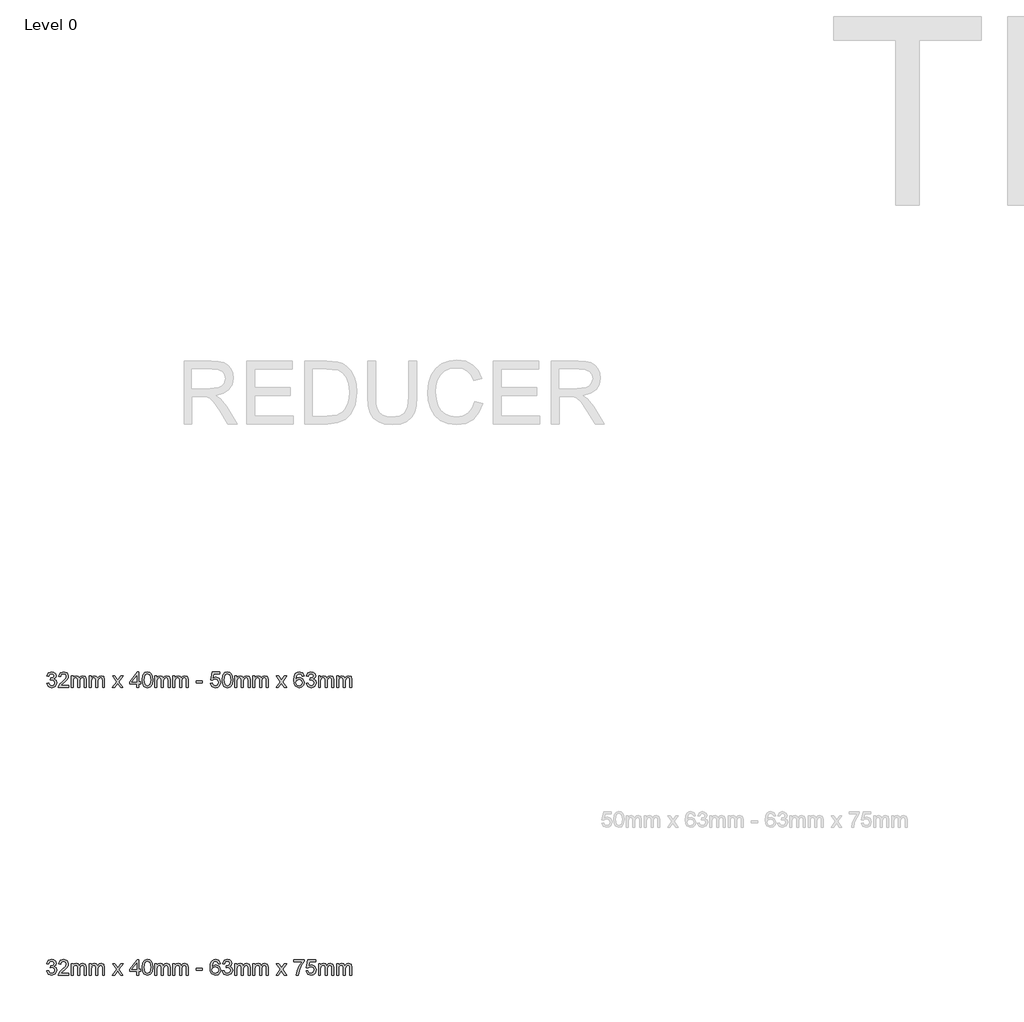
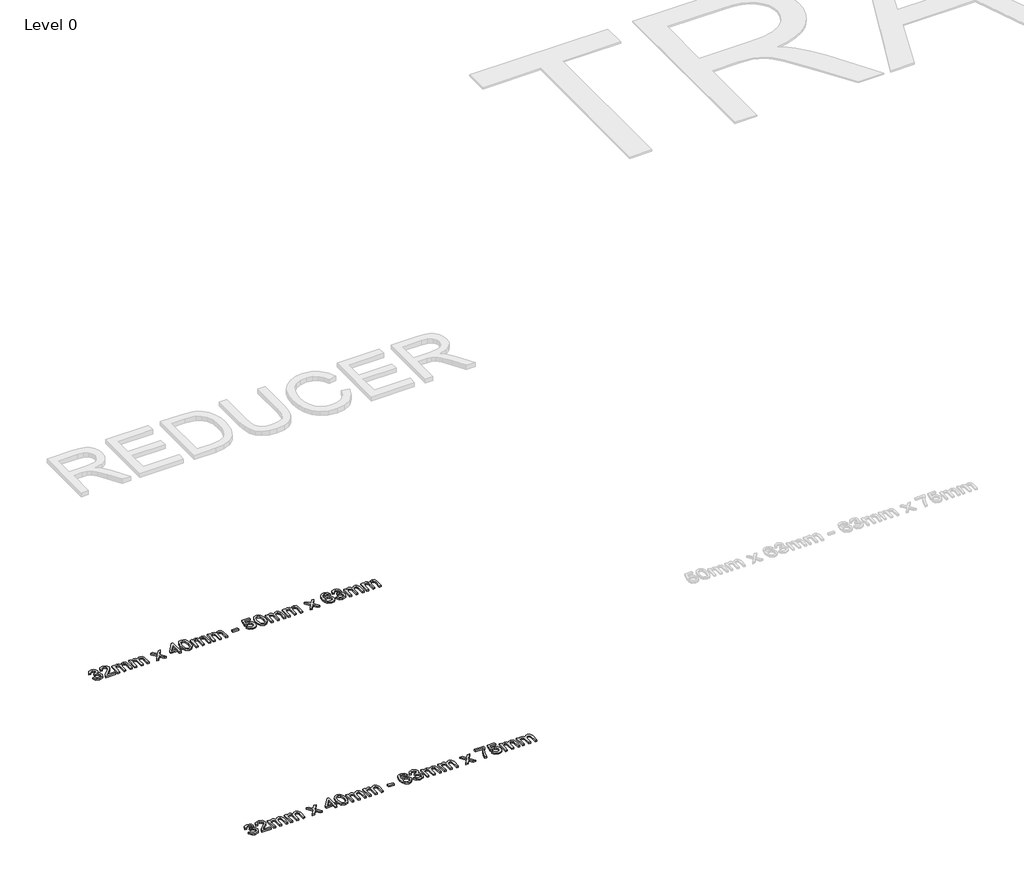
# One storey, part 2 of 21: 2 proxies.
"""IFC4 building model written with IfcOpenShell, lengths in millimetres."""

from ifc_helpers import new_model, si_unit, origin, origin_with_axes, place, context, project, spatial, polyline, outline, extrude, element, save

model = new_model("IFC4")

# Units and contexts
model_context = context("Model", 3, world=origin())
ifc_project = project(units=[si_unit("LENGTHUNIT", "METRE", prefix="MILLI")], contexts=[model_context])

# Site, building, storey
site = spatial("IfcSite", under=ifc_project)
building = spatial("IfcBuilding", under=site)
storey = spatial("IfcBuildingStorey", under=building, Name="Level 0", Elevation=0.0)

# Proxies
placement = place(None, origin())
element("IfcBuildingElementProxy", 1, Name="50mm", ObjectType="50mm", at=placement, inside=storey, context=model_context, shape_type="SweptSolid", body=[
    extrude(outline(polyline([(-11746.6398969, -12783.2605095), (-11740.3613775, -12782.4756946), (-11736.8971553, -12789.0853078), (-11730.4163009, -12791.1086588), (-11722.7888808, -12788.3250183), (-11719.9561895, -12781.4333623), (-11722.7643554, -12774.9402451), (-11729.9012661, -12772.3712025), (-11734.3035873, -12773.0579155), (-11733.6046115, -12766.7793962), (-11725.4744194, -12765.0503508), (-11722.3106342, -12759.5075954), (-11724.6037653, -12754.5963707), (-11730.5144027, -12752.6527275), (-11736.4986165, -12754.6147648), (-11739.5765625, -12760.5008768), (-11745.8550819, -12759.7160618), (-11740.7169967, -12749.8690871), (-11730.7351319, -12746.3742082), (-11723.1628942, -12748.0971222), (-11717.8653935, -12752.8060117), (-11716.0321149, -12759.1397134), (-11717.773423, -12764.9277234), (-11722.9237709, -12769.08479), (-11716.0811658, -12773.3767466), (-11713.6776701, -12781.5437269), (-11718.4846615, -12792.7763905), (-11730.6370301, -12797.3871782), (-11741.6489645, -12793.4508408), (-11746.6398969, -12783.2605095)])), origin_with_axes(), (0.0, 0.0, 1.0), 5.0),
    extrude(outline(polyline([(-11676.0065538, -12790.3238438), (-11676.0065538, -12796.6023632), (-11708.9687805, -12796.6023632), (-11708.2943302, -12792.2736184), (-11704.4806202, -12785.6088229), (-11696.6202082, -12778.3308908), (-11685.7799521, -12767.8707794), (-11683.0698881, -12760.7583942), (-11685.626668, -12755.0010409), (-11692.3037262, -12752.6527275), (-11699.2628272, -12754.9458586), (-11701.9054462, -12761.2856917), (-11708.1839656, -12760.5008768), (-11703.3708429, -12749.9917144), (-11692.1688361, -12746.3742082), (-11680.9300411, -12750.3963846), (-11676.7913687, -12760.3782494), (-11677.9072774, -12766.3318064), (-11681.6167542, -12772.4876984), (-11690.611469, -12781.0900058), (-11697.8342188, -12787.1294019), (-11700.6669102, -12790.3238438), (-11676.0065538, -12790.3238438)])), origin_with_axes(), (0.0, 0.0, 1.0), 5.0),
    extrude(outline(polyline([(-11668.1584046, -12796.6023632), (-11668.1584046, -12759.7160618), (-11661.8798852, -12759.7160618), (-11661.8798852, -12765.7861148), (-11657.5634031, -12760.8135765), (-11651.4197738, -12758.9312469), (-11645.1289917, -12760.8503647), (-11641.6709009, -12766.2275732), (-11636.771939, -12760.7553285), (-11630.5853901, -12758.9312469), (-11622.3754903, -12761.9662734), (-11619.4998793, -12771.3166074), (-11619.4998793, -12796.6023632), (-11625.7783987, -12796.6023632), (-11625.7783987, -12774.0144087), (-11626.3608785, -12768.7720903), (-11628.4700686, -12766.190785), (-11632.0569181, -12765.2097663), (-11638.2312042, -12767.7236266), (-11640.6898822, -12775.7802423), (-11640.6898822, -12796.6023632), (-11646.9684016, -12796.6023632), (-11646.9684016, -12773.3154329), (-11648.4215355, -12767.2331173), (-11653.1856073, -12765.2097663), (-11657.8331832, -12766.558667), (-11660.923392, -12770.507267), (-11661.8798852, -12777.999797), (-11661.8798852, -12796.6023632), (-11668.1584046, -12796.6023632)])), origin_with_axes(), (0.0, 0.0, 1.0), 5.0),
    extrude(outline(polyline([(-11610.0821002, -12796.6023632), (-11610.0821002, -12759.7160618), (-11603.8035809, -12759.7160618), (-11603.8035809, -12765.7861148), (-11599.4870988, -12760.8135765), (-11593.3434695, -12758.9312469), (-11587.0526873, -12760.8503647), (-11583.5945966, -12766.2275732), (-11578.6956347, -12760.7553285), (-11572.5090858, -12758.9312469), (-11564.2991859, -12761.9662734), (-11561.423575, -12771.3166074), (-11561.423575, -12796.6023632), (-11567.7020944, -12796.6023632), (-11567.7020944, -12774.0144087), (-11568.2845742, -12768.7720903), (-11570.3937643, -12766.190785), (-11573.9806138, -12765.2097663), (-11580.1548999, -12767.7236266), (-11582.6135779, -12775.7802423), (-11582.6135779, -12796.6023632), (-11588.8920973, -12796.6023632), (-11588.8920973, -12773.3154329), (-11590.3452312, -12767.2331173), (-11595.109303, -12765.2097663), (-11599.7568789, -12766.558667), (-11602.8470877, -12770.507267), (-11603.8035809, -12777.999797), (-11603.8035809, -12796.6023632), (-11610.0821002, -12796.6023632)])), origin_with_axes(), (0.0, 0.0, 1.0), 5.0),
    extrude(outline(polyline([(-11536.3094975, -12796.6023632), (-11522.8940674, -12778.0611107), (-11535.5246826, -12759.7160618), (-11527.9708389, -12759.7160618), (-11521.8762605, -12768.5452297), (-11519.0313064, -12772.714559), (-11516.5664971, -12769.3055192), (-11509.6257901, -12759.7160618), (-11502.0719465, -12759.7160618), (-11515.3402238, -12778.0611107), (-11502.5624558, -12796.6023632), (-11510.1162994, -12796.6023632), (-11517.8050331, -12785.4555388), (-11519.2152474, -12783.4199251), (-11528.7556538, -12796.6023632), (-11536.3094975, -12796.6023632)])), origin_with_axes(), (0.0, 0.0, 1.0), 5.0),
    extrude(outline(polyline([(-11458.6128201, -12796.6023632), (-11458.6128201, -12784.8301394), (-11481.3724529, -12784.8301394), (-11481.3724529, -12778.55162), (-11457.0431903, -12747.1590231), (-11452.3343007, -12747.1590231), (-11452.3343007, -12778.55162), (-11446.0557813, -12778.55162), (-11446.0557813, -12784.8301394), (-11452.3343007, -12784.8301394), (-11452.3343007, -12796.6023632), (-11458.6128201, -12796.6023632)]), holes=[polyline([(-11458.6128201, -12778.55162), (-11458.6128201, -12759.1519761), (-11473.646931, -12778.55162), (-11458.6128201, -12778.55162)])]), origin_with_axes(), (0.0, 0.0, 1.0), 5.0),
    extrude(outline(polyline([(-11440.5620769, -12771.8929559), (-11438.7165355, -12757.4413248), (-11433.2350938, -12749.1087977), (-11424.0809635, -12746.3742082), (-11416.747849, -12747.9928889), (-11411.6833402, -12752.6588589), (-11408.7402843, -12760.0900752), (-11407.5998501, -12771.8929559), (-11409.4269973, -12786.2832733), (-11414.890045, -12794.6341946), (-11424.0809635, -12797.3871782), (-11435.5588817, -12792.6047122), (-11439.3112781, -12784.1097038), (-11440.5620769, -12771.8929559)]), holes=[polyline([(-11434.2835575, -12771.8806932), (-11431.3405015, -12787.4727584), (-11424.0809635, -12791.1086588), (-11416.8214254, -12787.4604957), (-11413.8783695, -12771.8806932), (-11416.7233236, -12756.4664376), (-11424.1545399, -12752.6527275), (-11431.2423997, -12756.0127164), (-11434.2835575, -12771.8806932)])]), origin_with_axes(), (0.0, 0.0, 1.0), 5.0),
    extrude(outline(polyline([(-11400.5365158, -12796.6023632), (-11400.5365158, -12759.7160618), (-11394.2579964, -12759.7160618), (-11394.2579964, -12765.7861148), (-11389.9415143, -12760.8135765), (-11383.797885, -12758.9312469), (-11377.5071029, -12760.8503647), (-11374.0490121, -12766.2275732), (-11369.1500502, -12760.7553285), (-11362.9635014, -12758.9312469), (-11354.7536015, -12761.9662734), (-11351.8779906, -12771.3166074), (-11351.8779906, -12796.6023632), (-11358.1565099, -12796.6023632), (-11358.1565099, -12774.0144087), (-11358.7389898, -12768.7720903), (-11360.8481799, -12766.190785), (-11364.4350293, -12765.2097663), (-11370.6093155, -12767.7236266), (-11373.0679935, -12775.7802423), (-11373.0679935, -12796.6023632), (-11379.3465129, -12796.6023632), (-11379.3465129, -12773.3154329), (-11380.7996468, -12767.2331173), (-11385.5637186, -12765.2097663), (-11390.2112945, -12766.558667), (-11393.3015032, -12770.507267), (-11394.2579964, -12777.999797), (-11394.2579964, -12796.6023632), (-11400.5365158, -12796.6023632)])), origin_with_axes(), (0.0, 0.0, 1.0), 5.0),
    extrude(outline(polyline([(-11342.4602115, -12796.6023632), (-11342.4602115, -12759.7160618), (-11336.1816921, -12759.7160618), (-11336.1816921, -12765.7861148), (-11331.86521, -12760.8135765), (-11325.7215807, -12758.9312469), (-11319.4307986, -12760.8503647), (-11315.9727078, -12766.2275732), (-11311.0737459, -12760.7553285), (-11304.887197, -12758.9312469), (-11296.6772972, -12761.9662734), (-11293.8016863, -12771.3166074), (-11293.8016863, -12796.6023632), (-11300.0802056, -12796.6023632), (-11300.0802056, -12774.0144087), (-11300.6626855, -12768.7720903), (-11302.7718756, -12766.190785), (-11306.358725, -12765.2097663), (-11312.5330112, -12767.7236266), (-11314.9916892, -12775.7802423), (-11314.9916892, -12796.6023632), (-11321.2702086, -12796.6023632), (-11321.2702086, -12773.3154329), (-11322.7233424, -12767.2331173), (-11327.4874143, -12765.2097663), (-11332.1349902, -12766.558667), (-11335.2251989, -12770.507267), (-11336.1816921, -12777.999797), (-11336.1816921, -12796.6023632), (-11342.4602115, -12796.6023632)])), origin_with_axes(), (0.0, 0.0, 1.0), 5.0),
    extrude(outline(polyline([(-11267.9027938, -12781.6908797), (-11267.9027938, -12775.4123603), (-11248.2824207, -12775.4123603), (-11248.2824207, -12781.6908797), (-11267.9027938, -12781.6908797)])), origin_with_axes(), (0.0, 0.0, 1.0), 5.0),
    extrude(outline(polyline([(-11223.1683432, -12783.2605095), (-11216.8898238, -12782.4756946), (-11213.7260386, -12788.9442864), (-11207.1654764, -12791.1086588), (-11199.2928017, -12788.0981578), (-11196.4846358, -12780.1089871), (-11199.1149921, -12772.6532453), (-11207.0673745, -12769.9186558), (-11212.5794731, -12771.0100391), (-11216.1050089, -12773.8427305), (-11222.3835283, -12773.0579155), (-11216.8898238, -12747.1590231), (-11192.5605612, -12747.1590231), (-11192.5605612, -12753.4375425), (-11211.8130523, -12753.4375425), (-11214.4985908, -12767.2699055), (-11205.3138037, -12763.6401365), (-11194.5777808, -12768.1405595), (-11190.2061164, -12779.7165797), (-11194.1424538, -12791.3661762), (-11199.7955738, -12795.8819277), (-11207.1900019, -12797.3871782), (-11218.2693813, -12793.5182858), (-11223.1683432, -12783.2605095)])), origin_with_axes(), (0.0, 0.0, 1.0), 5.0),
    extrude(outline(polyline([(-11184.712412, -12771.8929559), (-11182.8668706, -12757.4413248), (-11177.3854289, -12749.1087977), (-11168.2312986, -12746.3742082), (-11160.8981841, -12747.9928889), (-11155.8336753, -12752.6588589), (-11152.8906194, -12760.0900752), (-11151.7501852, -12771.8929559), (-11153.5773324, -12786.2832733), (-11159.0403801, -12794.6341946), (-11168.2312986, -12797.3871782), (-11179.7092168, -12792.6047122), (-11183.4616132, -12784.1097038), (-11184.712412, -12771.8929559)]), holes=[polyline([(-11178.4338926, -12771.8806932), (-11175.4908366, -12787.4727584), (-11168.2312986, -12791.1086588), (-11160.9717605, -12787.4604957), (-11158.0287046, -12771.8806932), (-11160.8736587, -12756.4664376), (-11168.304875, -12752.6527275), (-11175.3927347, -12756.0127164), (-11178.4338926, -12771.8806932)])]), origin_with_axes(), (0.0, 0.0, 1.0), 5.0),
    extrude(outline(polyline([(-11144.6868509, -12796.6023632), (-11144.6868509, -12759.7160618), (-11138.4083315, -12759.7160618), (-11138.4083315, -12765.7861148), (-11134.0918494, -12760.8135765), (-11127.9482201, -12758.9312469), (-11121.657438, -12760.8503647), (-11118.1993472, -12766.2275732), (-11113.3003853, -12760.7553285), (-11107.1138364, -12758.9312469), (-11098.9039366, -12761.9662734), (-11096.0283257, -12771.3166074), (-11096.0283257, -12796.6023632), (-11102.306845, -12796.6023632), (-11102.306845, -12774.0144087), (-11102.8893249, -12768.7720903), (-11104.998515, -12766.190785), (-11108.5853644, -12765.2097663), (-11114.7596506, -12767.7236266), (-11117.2183286, -12775.7802423), (-11117.2183286, -12796.6023632), (-11123.496848, -12796.6023632), (-11123.496848, -12773.3154329), (-11124.9499818, -12767.2331173), (-11129.7140537, -12765.2097663), (-11134.3616295, -12766.558667), (-11137.4518383, -12770.507267), (-11138.4083315, -12777.999797), (-11138.4083315, -12796.6023632), (-11144.6868509, -12796.6023632)])), origin_with_axes(), (0.0, 0.0, 1.0), 5.0),
    extrude(outline(polyline([(-11086.6105466, -12796.6023632), (-11086.6105466, -12759.7160618), (-11080.3320272, -12759.7160618), (-11080.3320272, -12765.7861148), (-11076.0155451, -12760.8135765), (-11069.8719158, -12758.9312469), (-11063.5811337, -12760.8503647), (-11060.1230429, -12766.2275732), (-11055.224081, -12760.7553285), (-11049.0375321, -12758.9312469), (-11040.8276323, -12761.9662734), (-11037.9520213, -12771.3166074), (-11037.9520213, -12796.6023632), (-11044.2305407, -12796.6023632), (-11044.2305407, -12774.0144087), (-11044.8130206, -12768.7720903), (-11046.9222107, -12766.190785), (-11050.5090601, -12765.2097663), (-11056.6833463, -12767.7236266), (-11059.1420243, -12775.7802423), (-11059.1420243, -12796.6023632), (-11065.4205437, -12796.6023632), (-11065.4205437, -12773.3154329), (-11066.8736775, -12767.2331173), (-11071.6377494, -12765.2097663), (-11076.2853252, -12766.558667), (-11079.375534, -12770.507267), (-11080.3320272, -12777.999797), (-11080.3320272, -12796.6023632), (-11086.6105466, -12796.6023632)])), origin_with_axes(), (0.0, 0.0, 1.0), 5.0),
    extrude(outline(polyline([(-11012.8379438, -12796.6023632), (-10999.4225137, -12778.0611107), (-11012.0531289, -12759.7160618), (-11004.4992853, -12759.7160618), (-10998.4047069, -12768.5452297), (-10995.5597528, -12772.714559), (-10993.0949434, -12769.3055192), (-10986.1542364, -12759.7160618), (-10978.6003928, -12759.7160618), (-10991.8686701, -12778.0611107), (-10979.0909021, -12796.6023632), (-10986.6447458, -12796.6023632), (-10994.3334795, -12785.4555388), (-10995.7436938, -12783.4199251), (-11005.2841002, -12796.6023632), (-11012.8379438, -12796.6023632)])), origin_with_axes(), (0.0, 0.0, 1.0), 5.0),
    extrude(outline(polyline([(-10923.3690426, -12759.7160618), (-10929.647562, -12760.5008768), (-10932.0265322, -12755.2646897), (-10938.3173143, -12752.6527275), (-10943.982697, -12754.1733065), (-10948.2685223, -12759.8816087), (-10950.05275, -12771.0713528), (-10944.5161259, -12766.0620263), (-10937.6551267, -12764.4249514), (-10926.9865489, -12768.900849), (-10922.5842277, -12780.4646064), (-10924.6566296, -12789.1282274), (-10930.3588005, -12795.2595939), (-10938.5870944, -12797.3871782), (-10951.3832565, -12791.7463209), (-10955.0942661, -12784.2783164), (-10956.3312693, -12773.1560174), (-10954.9578432, -12760.6510953), (-10950.8375649, -12752.1009045), (-10945.212036, -12747.8058823), (-10937.9249069, -12746.3742082), (-10928.0043557, -12749.918138), (-10923.3690426, -12759.7160618)]), holes=[polyline([(-10950.05275, -12780.3665045), (-10948.5996161, -12785.8050267), (-10944.7368551, -12789.7536268), (-10939.0776038, -12791.1086588), (-10931.6770443, -12788.3004929), (-10928.862747, -12780.6730728), (-10931.6402561, -12773.3706152), (-10939.3351212, -12770.7034708), (-10946.9318844, -12773.3706152), (-10950.05275, -12780.3665045)])]), origin_with_axes(), (0.0, 0.0, 1.0), 5.0),
    extrude(outline(polyline([(-10917.0905232, -12783.2605095), (-10910.8120038, -12782.4756946), (-10907.3477817, -12789.0853078), (-10900.8669272, -12791.1086588), (-10893.2395072, -12788.3250183), (-10890.4068158, -12781.4333623), (-10893.2149817, -12774.9402451), (-10900.3518924, -12772.3712025), (-10904.7542136, -12773.0579155), (-10904.0552378, -12766.7793962), (-10895.9250457, -12765.0503508), (-10892.7612606, -12759.5075954), (-10895.0543917, -12754.5963707), (-10900.9650291, -12752.6527275), (-10906.9492429, -12754.6147648), (-10910.0271889, -12760.5008768), (-10916.3057083, -12759.7160618), (-10911.1676231, -12749.8690871), (-10901.1857583, -12746.3742082), (-10893.6135205, -12748.0971222), (-10888.3160198, -12752.8060117), (-10886.4827412, -12759.1397134), (-10888.2240493, -12764.9277234), (-10893.3743972, -12769.08479), (-10886.5317921, -12773.3767466), (-10884.1282964, -12781.5437269), (-10888.9352878, -12792.7763905), (-10901.0876564, -12797.3871782), (-10912.0995908, -12793.4508408), (-10917.0905232, -12783.2605095)])), origin_with_axes(), (0.0, 0.0, 1.0), 5.0),
    extrude(outline(polyline([(-10877.0649621, -12796.6023632), (-10877.0649621, -12759.7160618), (-10870.7864427, -12759.7160618), (-10870.7864427, -12765.7861148), (-10866.4699607, -12760.8135765), (-10860.3263313, -12758.9312469), (-10854.0355492, -12760.8503647), (-10850.5774585, -12766.2275732), (-10845.6784966, -12760.7553285), (-10839.4919477, -12758.9312469), (-10831.2820478, -12761.9662734), (-10828.4064369, -12771.3166074), (-10828.4064369, -12796.6023632), (-10834.6849563, -12796.6023632), (-10834.6849563, -12774.0144087), (-10835.2674361, -12768.7720903), (-10837.3766262, -12766.190785), (-10840.9634757, -12765.2097663), (-10847.1377618, -12767.7236266), (-10849.5964398, -12775.7802423), (-10849.5964398, -12796.6023632), (-10855.8749592, -12796.6023632), (-10855.8749592, -12773.3154329), (-10857.3280931, -12767.2331173), (-10862.0921649, -12765.2097663), (-10866.7397408, -12766.558667), (-10869.8299496, -12770.507267), (-10870.7864427, -12777.999797), (-10870.7864427, -12796.6023632), (-10877.0649621, -12796.6023632)])), origin_with_axes(), (0.0, 0.0, 1.0), 5.0),
    extrude(outline(polyline([(-10818.9886578, -12796.6023632), (-10818.9886578, -12759.7160618), (-10812.7101384, -12759.7160618), (-10812.7101384, -12765.7861148), (-10808.3936564, -12760.8135765), (-10802.250027, -12758.9312469), (-10795.9592449, -12760.8503647), (-10792.5011542, -12766.2275732), (-10787.6021923, -12760.7553285), (-10781.4156434, -12758.9312469), (-10773.2057435, -12761.9662734), (-10770.3301326, -12771.3166074), (-10770.3301326, -12796.6023632), (-10776.608652, -12796.6023632), (-10776.608652, -12774.0144087), (-10777.1911318, -12768.7720903), (-10779.3003219, -12766.190785), (-10782.8871714, -12765.2097663), (-10789.0614575, -12767.7236266), (-10791.5201355, -12775.7802423), (-10791.5201355, -12796.6023632), (-10797.7986549, -12796.6023632), (-10797.7986549, -12773.3154329), (-10799.2517888, -12767.2331173), (-10804.0158606, -12765.2097663), (-10808.6634365, -12766.558667), (-10811.7536452, -12770.507267), (-10812.7101384, -12777.999797), (-10812.7101384, -12796.6023632), (-10818.9886578, -12796.6023632)])), origin_with_axes(), (0.0, 0.0, 1.0), 5.0),
])
element("IfcBuildingElementProxy", 2, Name="50mm", ObjectType="50mm", at=placement, inside=storey, context=model_context, shape_type="SweptSolid", body=[
    extrude(outline(polyline([(-11746.6398969, -13703.2605095), (-11740.3613775, -13702.4756946), (-11736.8971553, -13709.0853078), (-11730.4163009, -13711.1086588), (-11722.7888808, -13708.3250183), (-11719.9561895, -13701.4333623), (-11722.7643554, -13694.9402451), (-11729.9012661, -13692.3712025), (-11734.3035873, -13693.0579155), (-11733.6046115, -13686.7793962), (-11725.4744194, -13685.0503508), (-11722.3106342, -13679.5075954), (-11724.6037653, -13674.5963707), (-11730.5144027, -13672.6527275), (-11736.4986165, -13674.6147648), (-11739.5765625, -13680.5008768), (-11745.8550819, -13679.7160618), (-11740.7169967, -13669.8690871), (-11730.7351319, -13666.3742082), (-11723.1628942, -13668.0971222), (-11717.8653935, -13672.8060117), (-11716.0321149, -13679.1397134), (-11717.773423, -13684.9277234), (-11722.9237709, -13689.08479), (-11716.0811658, -13693.3767466), (-11713.6776701, -13701.5437269), (-11718.4846615, -13712.7763905), (-11730.6370301, -13717.3871782), (-11741.6489645, -13713.4508408), (-11746.6398969, -13703.2605095)])), origin_with_axes(), (0.0, 0.0, 1.0), 5.0),
    extrude(outline(polyline([(-11676.0065538, -13710.3238438), (-11676.0065538, -13716.6023632), (-11708.9687805, -13716.6023632), (-11708.2943302, -13712.2736184), (-11704.4806202, -13705.6088229), (-11696.6202082, -13698.3308908), (-11685.7799521, -13687.8707794), (-11683.0698881, -13680.7583942), (-11685.626668, -13675.0010409), (-11692.3037262, -13672.6527275), (-11699.2628272, -13674.9458586), (-11701.9054462, -13681.2856917), (-11708.1839656, -13680.5008768), (-11703.3708429, -13669.9917144), (-11692.1688361, -13666.3742082), (-11680.9300411, -13670.3963846), (-11676.7913687, -13680.3782494), (-11677.9072774, -13686.3318064), (-11681.6167542, -13692.4876984), (-11690.611469, -13701.0900058), (-11697.8342188, -13707.1294019), (-11700.6669102, -13710.3238438), (-11676.0065538, -13710.3238438)])), origin_with_axes(), (0.0, 0.0, 1.0), 5.0),
    extrude(outline(polyline([(-11668.1584046, -13716.6023632), (-11668.1584046, -13679.7160618), (-11661.8798852, -13679.7160618), (-11661.8798852, -13685.7861148), (-11657.5634031, -13680.8135765), (-11651.4197738, -13678.9312469), (-11645.1289917, -13680.8503647), (-11641.6709009, -13686.2275732), (-11636.771939, -13680.7553285), (-11630.5853901, -13678.9312469), (-11622.3754903, -13681.9662734), (-11619.4998793, -13691.3166074), (-11619.4998793, -13716.6023632), (-11625.7783987, -13716.6023632), (-11625.7783987, -13694.0144087), (-11626.3608785, -13688.7720903), (-11628.4700686, -13686.190785), (-11632.0569181, -13685.2097663), (-11638.2312042, -13687.7236266), (-11640.6898822, -13695.7802423), (-11640.6898822, -13716.6023632), (-11646.9684016, -13716.6023632), (-11646.9684016, -13693.3154329), (-11648.4215355, -13687.2331173), (-11653.1856073, -13685.2097663), (-11657.8331832, -13686.558667), (-11660.923392, -13690.507267), (-11661.8798852, -13697.999797), (-11661.8798852, -13716.6023632), (-11668.1584046, -13716.6023632)])), origin_with_axes(), (0.0, 0.0, 1.0), 5.0),
    extrude(outline(polyline([(-11610.0821002, -13716.6023632), (-11610.0821002, -13679.7160618), (-11603.8035809, -13679.7160618), (-11603.8035809, -13685.7861148), (-11599.4870988, -13680.8135765), (-11593.3434695, -13678.9312469), (-11587.0526873, -13680.8503647), (-11583.5945966, -13686.2275732), (-11578.6956347, -13680.7553285), (-11572.5090858, -13678.9312469), (-11564.2991859, -13681.9662734), (-11561.423575, -13691.3166074), (-11561.423575, -13716.6023632), (-11567.7020944, -13716.6023632), (-11567.7020944, -13694.0144087), (-11568.2845742, -13688.7720903), (-11570.3937643, -13686.190785), (-11573.9806138, -13685.2097663), (-11580.1548999, -13687.7236266), (-11582.6135779, -13695.7802423), (-11582.6135779, -13716.6023632), (-11588.8920973, -13716.6023632), (-11588.8920973, -13693.3154329), (-11590.3452312, -13687.2331173), (-11595.109303, -13685.2097663), (-11599.7568789, -13686.558667), (-11602.8470877, -13690.507267), (-11603.8035809, -13697.999797), (-11603.8035809, -13716.6023632), (-11610.0821002, -13716.6023632)])), origin_with_axes(), (0.0, 0.0, 1.0), 5.0),
    extrude(outline(polyline([(-11536.3094975, -13716.6023632), (-11522.8940674, -13698.0611107), (-11535.5246826, -13679.7160618), (-11527.9708389, -13679.7160618), (-11521.8762605, -13688.5452297), (-11519.0313064, -13692.714559), (-11516.5664971, -13689.3055192), (-11509.6257901, -13679.7160618), (-11502.0719465, -13679.7160618), (-11515.3402238, -13698.0611107), (-11502.5624558, -13716.6023632), (-11510.1162994, -13716.6023632), (-11517.8050331, -13705.4555388), (-11519.2152474, -13703.4199251), (-11528.7556538, -13716.6023632), (-11536.3094975, -13716.6023632)])), origin_with_axes(), (0.0, 0.0, 1.0), 5.0),
    extrude(outline(polyline([(-11458.6128201, -13716.6023632), (-11458.6128201, -13704.8301394), (-11481.3724529, -13704.8301394), (-11481.3724529, -13698.55162), (-11457.0431903, -13667.1590231), (-11452.3343007, -13667.1590231), (-11452.3343007, -13698.55162), (-11446.0557813, -13698.55162), (-11446.0557813, -13704.8301394), (-11452.3343007, -13704.8301394), (-11452.3343007, -13716.6023632), (-11458.6128201, -13716.6023632)]), holes=[polyline([(-11458.6128201, -13698.55162), (-11458.6128201, -13679.1519761), (-11473.646931, -13698.55162), (-11458.6128201, -13698.55162)])]), origin_with_axes(), (0.0, 0.0, 1.0), 5.0),
    extrude(outline(polyline([(-11440.5620769, -13691.8929559), (-11438.7165355, -13677.4413248), (-11433.2350938, -13669.1087977), (-11424.0809635, -13666.3742082), (-11416.747849, -13667.9928889), (-11411.6833402, -13672.6588589), (-11408.7402843, -13680.0900752), (-11407.5998501, -13691.8929559), (-11409.4269973, -13706.2832733), (-11414.890045, -13714.6341946), (-11424.0809635, -13717.3871782), (-11435.5588817, -13712.6047122), (-11439.3112781, -13704.1097038), (-11440.5620769, -13691.8929559)]), holes=[polyline([(-11434.2835575, -13691.8806932), (-11431.3405015, -13707.4727584), (-11424.0809635, -13711.1086588), (-11416.8214254, -13707.4604957), (-11413.8783695, -13691.8806932), (-11416.7233236, -13676.4664376), (-11424.1545399, -13672.6527275), (-11431.2423997, -13676.0127164), (-11434.2835575, -13691.8806932)])]), origin_with_axes(), (0.0, 0.0, 1.0), 5.0),
    extrude(outline(polyline([(-11400.5365158, -13716.6023632), (-11400.5365158, -13679.7160618), (-11394.2579964, -13679.7160618), (-11394.2579964, -13685.7861148), (-11389.9415143, -13680.8135765), (-11383.797885, -13678.9312469), (-11377.5071029, -13680.8503647), (-11374.0490121, -13686.2275732), (-11369.1500502, -13680.7553285), (-11362.9635014, -13678.9312469), (-11354.7536015, -13681.9662734), (-11351.8779906, -13691.3166074), (-11351.8779906, -13716.6023632), (-11358.1565099, -13716.6023632), (-11358.1565099, -13694.0144087), (-11358.7389898, -13688.7720903), (-11360.8481799, -13686.190785), (-11364.4350293, -13685.2097663), (-11370.6093155, -13687.7236266), (-11373.0679935, -13695.7802423), (-11373.0679935, -13716.6023632), (-11379.3465129, -13716.6023632), (-11379.3465129, -13693.3154329), (-11380.7996468, -13687.2331173), (-11385.5637186, -13685.2097663), (-11390.2112945, -13686.558667), (-11393.3015032, -13690.507267), (-11394.2579964, -13697.999797), (-11394.2579964, -13716.6023632), (-11400.5365158, -13716.6023632)])), origin_with_axes(), (0.0, 0.0, 1.0), 5.0),
    extrude(outline(polyline([(-11342.4602115, -13716.6023632), (-11342.4602115, -13679.7160618), (-11336.1816921, -13679.7160618), (-11336.1816921, -13685.7861148), (-11331.86521, -13680.8135765), (-11325.7215807, -13678.9312469), (-11319.4307986, -13680.8503647), (-11315.9727078, -13686.2275732), (-11311.0737459, -13680.7553285), (-11304.887197, -13678.9312469), (-11296.6772972, -13681.9662734), (-11293.8016863, -13691.3166074), (-11293.8016863, -13716.6023632), (-11300.0802056, -13716.6023632), (-11300.0802056, -13694.0144087), (-11300.6626855, -13688.7720903), (-11302.7718756, -13686.190785), (-11306.358725, -13685.2097663), (-11312.5330112, -13687.7236266), (-11314.9916892, -13695.7802423), (-11314.9916892, -13716.6023632), (-11321.2702086, -13716.6023632), (-11321.2702086, -13693.3154329), (-11322.7233424, -13687.2331173), (-11327.4874143, -13685.2097663), (-11332.1349902, -13686.558667), (-11335.2251989, -13690.507267), (-11336.1816921, -13697.999797), (-11336.1816921, -13716.6023632), (-11342.4602115, -13716.6023632)])), origin_with_axes(), (0.0, 0.0, 1.0), 5.0),
    extrude(outline(polyline([(-11267.9027938, -13701.6908797), (-11267.9027938, -13695.4123603), (-11248.2824207, -13695.4123603), (-11248.2824207, -13701.6908797), (-11267.9027938, -13701.6908797)])), origin_with_axes(), (0.0, 0.0, 1.0), 5.0),
    extrude(outline(polyline([(-11190.9909313, -13679.7160618), (-11197.2694507, -13680.5008768), (-11199.648421, -13675.2646897), (-11205.9392031, -13672.6527275), (-11211.6045858, -13674.1733065), (-11215.890411, -13679.8816087), (-11217.6746387, -13691.0713528), (-11212.1380147, -13686.0620263), (-11205.2770155, -13684.4249514), (-11194.6084376, -13688.900849), (-11190.2061164, -13700.4646064), (-11192.2785183, -13709.1282274), (-11197.9806892, -13715.2595939), (-11206.2089832, -13717.3871782), (-11219.0051453, -13711.7463209), (-11222.7161549, -13704.2783164), (-11223.9531581, -13693.1560174), (-11222.579732, -13680.6510953), (-11218.4594536, -13672.1009045), (-11212.8339248, -13667.8058823), (-11205.5467956, -13666.3742082), (-11195.6262445, -13669.918138), (-11190.9909313, -13679.7160618)]), holes=[polyline([(-11217.6746387, -13700.3665045), (-11216.2215048, -13705.8050267), (-11212.3587439, -13709.7536268), (-11206.6994925, -13711.1086588), (-11199.2989331, -13708.3004929), (-11196.4846358, -13700.6730728), (-11199.2621449, -13693.3706152), (-11206.9570099, -13690.7034708), (-11214.5537731, -13693.3706152), (-11217.6746387, -13700.3665045)])]), origin_with_axes(), (0.0, 0.0, 1.0), 5.0),
    extrude(outline(polyline([(-11184.712412, -13703.2605095), (-11178.4338926, -13702.4756946), (-11174.9696705, -13709.0853078), (-11168.488816, -13711.1086588), (-11160.8613959, -13708.3250183), (-11158.0287046, -13701.4333623), (-11160.8368705, -13694.9402451), (-11167.9737812, -13692.3712025), (-11172.3761024, -13693.0579155), (-11171.6771266, -13686.7793962), (-11163.5469345, -13685.0503508), (-11160.3831493, -13679.5075954), (-11162.6762804, -13674.5963707), (-11168.5869178, -13672.6527275), (-11174.5711316, -13674.6147648), (-11177.6490776, -13680.5008768), (-11183.927597, -13679.7160618), (-11178.7895118, -13669.8690871), (-11168.807647, -13666.3742082), (-11161.2354093, -13668.0971222), (-11155.9379086, -13672.8060117), (-11154.10463, -13679.1397134), (-11155.8459381, -13684.9277234), (-11160.996286, -13689.08479), (-11154.1536809, -13693.3767466), (-11151.7501852, -13701.5437269), (-11156.5571766, -13712.7763905), (-11168.7095452, -13717.3871782), (-11179.7214796, -13713.4508408), (-11184.712412, -13703.2605095)])), origin_with_axes(), (0.0, 0.0, 1.0), 5.0),
    extrude(outline(polyline([(-11144.6868509, -13716.6023632), (-11144.6868509, -13679.7160618), (-11138.4083315, -13679.7160618), (-11138.4083315, -13685.7861148), (-11134.0918494, -13680.8135765), (-11127.9482201, -13678.9312469), (-11121.657438, -13680.8503647), (-11118.1993472, -13686.2275732), (-11113.3003853, -13680.7553285), (-11107.1138364, -13678.9312469), (-11098.9039366, -13681.9662734), (-11096.0283257, -13691.3166074), (-11096.0283257, -13716.6023632), (-11102.306845, -13716.6023632), (-11102.306845, -13694.0144087), (-11102.8893249, -13688.7720903), (-11104.998515, -13686.190785), (-11108.5853644, -13685.2097663), (-11114.7596506, -13687.7236266), (-11117.2183286, -13695.7802423), (-11117.2183286, -13716.6023632), (-11123.496848, -13716.6023632), (-11123.496848, -13693.3154329), (-11124.9499818, -13687.2331173), (-11129.7140537, -13685.2097663), (-11134.3616295, -13686.558667), (-11137.4518383, -13690.507267), (-11138.4083315, -13697.999797), (-11138.4083315, -13716.6023632), (-11144.6868509, -13716.6023632)])), origin_with_axes(), (0.0, 0.0, 1.0), 5.0),
    extrude(outline(polyline([(-11086.6105466, -13716.6023632), (-11086.6105466, -13679.7160618), (-11080.3320272, -13679.7160618), (-11080.3320272, -13685.7861148), (-11076.0155451, -13680.8135765), (-11069.8719158, -13678.9312469), (-11063.5811337, -13680.8503647), (-11060.1230429, -13686.2275732), (-11055.224081, -13680.7553285), (-11049.0375321, -13678.9312469), (-11040.8276323, -13681.9662734), (-11037.9520213, -13691.3166074), (-11037.9520213, -13716.6023632), (-11044.2305407, -13716.6023632), (-11044.2305407, -13694.0144087), (-11044.8130206, -13688.7720903), (-11046.9222107, -13686.190785), (-11050.5090601, -13685.2097663), (-11056.6833463, -13687.7236266), (-11059.1420243, -13695.7802423), (-11059.1420243, -13716.6023632), (-11065.4205437, -13716.6023632), (-11065.4205437, -13693.3154329), (-11066.8736775, -13687.2331173), (-11071.6377494, -13685.2097663), (-11076.2853252, -13686.558667), (-11079.375534, -13690.507267), (-11080.3320272, -13697.999797), (-11080.3320272, -13716.6023632), (-11086.6105466, -13716.6023632)])), origin_with_axes(), (0.0, 0.0, 1.0), 5.0),
    extrude(outline(polyline([(-11012.8379438, -13716.6023632), (-10999.4225137, -13698.0611107), (-11012.0531289, -13679.7160618), (-11004.4992853, -13679.7160618), (-10998.4047069, -13688.5452297), (-10995.5597528, -13692.714559), (-10993.0949434, -13689.3055192), (-10986.1542364, -13679.7160618), (-10978.6003928, -13679.7160618), (-10991.8686701, -13698.0611107), (-10979.0909021, -13716.6023632), (-10986.6447458, -13716.6023632), (-10994.3334795, -13705.4555388), (-10995.7436938, -13703.4199251), (-11005.2841002, -13716.6023632), (-11012.8379438, -13716.6023632)])), origin_with_axes(), (0.0, 0.0, 1.0), 5.0),
    extrude(outline(polyline([(-10955.5464544, -13673.4375425), (-10955.5464544, -13667.1590231), (-10922.5842277, -13667.1590231), (-10922.5842277, -13672.2357946), (-10931.9345617, -13685.7431952), (-10939.0898665, -13702.9539412), (-10941.4197858, -13716.6023632), (-10947.6983052, -13716.6023632), (-10945.202839, -13702.4389064), (-10938.3541025, -13686.4299083), (-10928.862747, -13673.4375425), (-10955.5464544, -13673.4375425)])), origin_with_axes(), (0.0, 0.0, 1.0), 5.0),
    extrude(outline(polyline([(-10917.0905232, -13703.2605095), (-10910.8120038, -13702.4756946), (-10907.6482187, -13708.9442864), (-10901.0876564, -13711.1086588), (-10893.2149817, -13708.0981578), (-10890.4068158, -13700.1089871), (-10893.0371721, -13692.6532453), (-10900.9895545, -13689.9186558), (-10906.5016531, -13691.0100391), (-10910.0271889, -13693.8427305), (-10916.3057083, -13693.0579155), (-10910.8120038, -13667.1590231), (-10886.4827412, -13667.1590231), (-10886.4827412, -13673.4375425), (-10905.7352323, -13673.4375425), (-10908.4207708, -13687.2699055), (-10899.2359837, -13683.6401365), (-10888.4999608, -13688.1405595), (-10884.1282964, -13699.7165797), (-10888.0646338, -13711.3661762), (-10893.7177538, -13715.8819277), (-10901.1121819, -13717.3871782), (-10912.1915613, -13713.5182858), (-10917.0905232, -13703.2605095)])), origin_with_axes(), (0.0, 0.0, 1.0), 5.0),
    extrude(outline(polyline([(-10877.0649621, -13716.6023632), (-10877.0649621, -13679.7160618), (-10870.7864427, -13679.7160618), (-10870.7864427, -13685.7861148), (-10866.4699607, -13680.8135765), (-10860.3263313, -13678.9312469), (-10854.0355492, -13680.8503647), (-10850.5774585, -13686.2275732), (-10845.6784966, -13680.7553285), (-10839.4919477, -13678.9312469), (-10831.2820478, -13681.9662734), (-10828.4064369, -13691.3166074), (-10828.4064369, -13716.6023632), (-10834.6849563, -13716.6023632), (-10834.6849563, -13694.0144087), (-10835.2674361, -13688.7720903), (-10837.3766262, -13686.190785), (-10840.9634757, -13685.2097663), (-10847.1377618, -13687.7236266), (-10849.5964398, -13695.7802423), (-10849.5964398, -13716.6023632), (-10855.8749592, -13716.6023632), (-10855.8749592, -13693.3154329), (-10857.3280931, -13687.2331173), (-10862.0921649, -13685.2097663), (-10866.7397408, -13686.558667), (-10869.8299496, -13690.507267), (-10870.7864427, -13697.999797), (-10870.7864427, -13716.6023632), (-10877.0649621, -13716.6023632)])), origin_with_axes(), (0.0, 0.0, 1.0), 5.0),
    extrude(outline(polyline([(-10818.9886578, -13716.6023632), (-10818.9886578, -13679.7160618), (-10812.7101384, -13679.7160618), (-10812.7101384, -13685.7861148), (-10808.3936564, -13680.8135765), (-10802.250027, -13678.9312469), (-10795.9592449, -13680.8503647), (-10792.5011542, -13686.2275732), (-10787.6021923, -13680.7553285), (-10781.4156434, -13678.9312469), (-10773.2057435, -13681.9662734), (-10770.3301326, -13691.3166074), (-10770.3301326, -13716.6023632), (-10776.608652, -13716.6023632), (-10776.608652, -13694.0144087), (-10777.1911318, -13688.7720903), (-10779.3003219, -13686.190785), (-10782.8871714, -13685.2097663), (-10789.0614575, -13687.7236266), (-10791.5201355, -13695.7802423), (-10791.5201355, -13716.6023632), (-10797.7986549, -13716.6023632), (-10797.7986549, -13693.3154329), (-10799.2517888, -13687.2331173), (-10804.0158606, -13685.2097663), (-10808.6634365, -13686.558667), (-10811.7536452, -13690.507267), (-10812.7101384, -13697.999797), (-10812.7101384, -13716.6023632), (-10818.9886578, -13716.6023632)])), origin_with_axes(), (0.0, 0.0, 1.0), 5.0),
])

save(model, "model.ifc")
